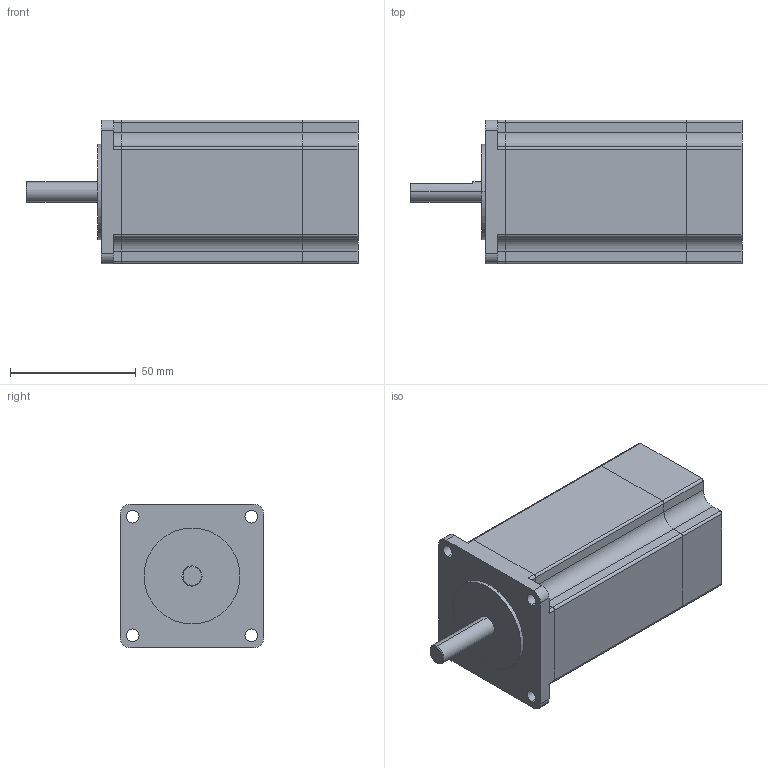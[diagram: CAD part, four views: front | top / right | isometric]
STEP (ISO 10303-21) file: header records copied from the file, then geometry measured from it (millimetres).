
FILE_DESCRIPTION (( 'STEP AP203' ), '1' );
FILE_NAME ('TM2303A50A-P1000.STEP', '2019-02-16T02:40:23', ( 'User' ), ( 'www.dadighost.com' ), 'SwSTEP 2.0', 'SolidWorks 2014', '' );
FILE_SCHEMA (( 'CONFIG_CONTROL_DESIGN' ));
Length unit declared in the file: millimetre
Products named in the file (1): TM2303A50A-P1000
Bounding box: 132 x 57.15 x 57.15 mm (x, y, z)
Volume: 294539.7 mm3; surface area: 40932.3 mm2
Topology: 3 solids, 3 shells, 105 faces, 289 edges, 192 vertices
Faces by surface type: cylinder 52, plane 50, cone 3
Entity records: 3467 total; most frequent: DIRECTION 608, CARTESIAN_POINT 593, ORIENTED_EDGE 578, EDGE_CURVE 289, AXIS2_PLACEMENT_3D 215, VERTEX_POINT 192, VECTOR 178, LINE 178
